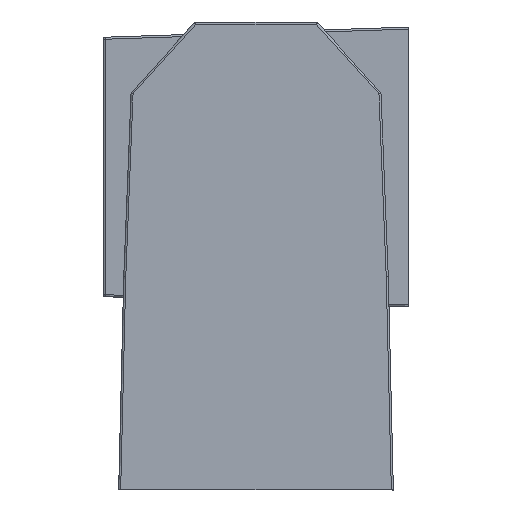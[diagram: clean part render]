
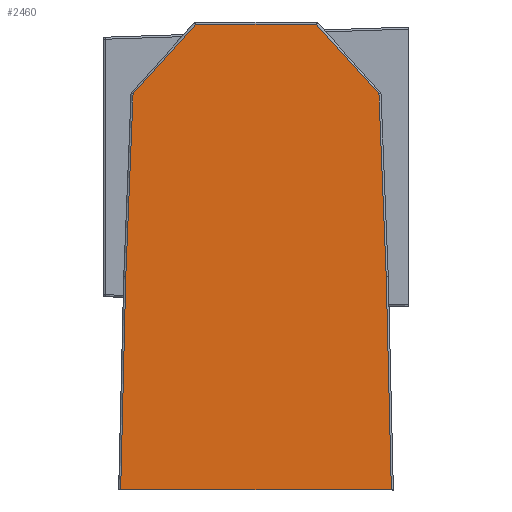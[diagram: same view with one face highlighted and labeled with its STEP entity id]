
A CAD part, left-side view. The second image highlights one B-rep face of the part: STEP entity #2460.
In plain terms, the highlighted planar face has unit normal (-1, 0, 0).
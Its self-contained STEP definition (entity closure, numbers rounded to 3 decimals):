
#201 = CARTESIAN_POINT ( 'NONE',  ( -81., -5.851, 22.866 ) ) ;
#235 = DIRECTION ( 'NONE',  ( 0., 0.668, 0.744 ) ) ;
#351 = DIRECTION ( 'NONE',  ( 0., 0., -1. ) ) ;
#457 = LINE ( 'NONE', #5366, #4140 ) ;
#489 = DIRECTION ( 'NONE',  ( 0., 0.024, 1. ) ) ;
#580 = EDGE_CURVE ( 'NONE', #2830, #8205, #6964, .T. ) ;
#723 = ORIENTED_EDGE ( 'NONE', *, *, #1234, .T. ) ;
#850 = CARTESIAN_POINT ( 'NONE',  ( -81., -13.5, -23. ) ) ;
#965 = VERTEX_POINT ( 'NONE', #6928 ) ;
#996 = EDGE_CURVE ( 'NONE', #7837, #2830, #1253, .T. ) ;
#1003 = EDGE_CURVE ( 'NONE', #8205, #1673, #3111, .T. ) ;
#1011 = CARTESIAN_POINT ( 'NONE',  ( -81., -5.911, 22.8 ) ) ;
#1022 = PLANE ( 'NONE',  #1541 ) ;
#1234 = EDGE_CURVE ( 'NONE', #1673, #2189, #1875, .T. ) ;
#1244 = DIRECTION ( 'NONE',  ( 0., 0.04, -0.999 ) ) ;
#1253 = LINE ( 'NONE', #3574, #4912 ) ;
#1496 = ORIENTED_EDGE ( 'NONE', *, *, #5629, .T. ) ;
#1541 = AXIS2_PLACEMENT_3D ( 'NONE', #8634, #4481, #351 ) ;
#1667 = CARTESIAN_POINT ( 'NONE',  ( -81., 12.083, 15.925 ) ) ;
#1673 = VERTEX_POINT ( 'NONE', #7435 ) ;
#1833 = EDGE_CURVE ( 'NONE', #2189, #965, #457, .T. ) ;
#1875 = LINE ( 'NONE', #1939, #5089 ) ;
#1939 = CARTESIAN_POINT ( 'NONE',  ( -81., 12.131, 15.872 ) ) ;
#2160 = ORIENTED_EDGE ( 'NONE', *, *, #1833, .T. ) ;
#2189 = VERTEX_POINT ( 'NONE', #1667 ) ;
#2273 = VECTOR ( 'NONE', #489, 1000. ) ;
#2371 = CARTESIAN_POINT ( 'NONE',  ( -81., -13.3, -23. ) ) ;
#2460 = ADVANCED_FACE ( 'NONE', ( #4872 ), #1022, .F. ) ;
#2606 = VECTOR ( 'NONE', #4141, 1000. ) ;
#2830 = VERTEX_POINT ( 'NONE', #3540 ) ;
#3111 = LINE ( 'NONE', #8391, #6521 ) ;
#3540 = CARTESIAN_POINT ( 'NONE',  ( -81., -12.083, 15.925 ) ) ;
#3574 = CARTESIAN_POINT ( 'NONE',  ( -81., -12.7, 0.508 ) ) ;
#3653 = ORIENTED_EDGE ( 'NONE', *, *, #580, .T. ) ;
#3886 = VERTEX_POINT ( 'NONE', #7943 ) ;
#4015 = CARTESIAN_POINT ( 'NONE',  ( -81., -12.8, -2.006 ) ) ;
#4140 = VECTOR ( 'NONE', #1244, 1000. ) ;
#4141 = DIRECTION ( 'NONE',  ( 0., 0.024, -1. ) ) ;
#4481 = DIRECTION ( 'NONE',  ( 1., 0., 0. ) ) ;
#4499 = ORIENTED_EDGE ( 'NONE', *, *, #5071, .T. ) ;
#4823 = ORIENTED_EDGE ( 'NONE', *, *, #1003, .T. ) ;
#4872 = FACE_OUTER_BOUND ( 'NONE', #5184, .T. ) ;
#4912 = VECTOR ( 'NONE', #7680, 1000. ) ;
#5071 = EDGE_CURVE ( 'NONE', #5936, #7837, #5917, .T. ) ;
#5089 = VECTOR ( 'NONE', #6047, 1000. ) ;
#5126 = VECTOR ( 'NONE', #235, 1000. ) ;
#5184 = EDGE_LOOP ( 'NONE', ( #2160, #1496, #6544, #4499, #5894, #3653, #4823, #723 ) ) ;
#5366 = CARTESIAN_POINT ( 'NONE',  ( -81., 12.7, 0.508 ) ) ;
#5485 = CARTESIAN_POINT ( 'NONE',  ( -81., 12.745, 0.303 ) ) ;
#5629 = EDGE_CURVE ( 'NONE', #965, #3886, #6671, .T. ) ;
#5894 = ORIENTED_EDGE ( 'NONE', *, *, #996, .T. ) ;
#5917 = LINE ( 'NONE', #7393, #2273 ) ;
#5936 = VERTEX_POINT ( 'NONE', #2371 ) ;
#6047 = DIRECTION ( 'NONE',  ( 0., 0.668, -0.744 ) ) ;
#6316 = DIRECTION ( 'NONE',  ( 0., 1., 0. ) ) ;
#6521 = VECTOR ( 'NONE', #6316, 1000. ) ;
#6544 = ORIENTED_EDGE ( 'NONE', *, *, #8585, .F. ) ;
#6671 = LINE ( 'NONE', #5485, #2606 ) ;
#6928 = CARTESIAN_POINT ( 'NONE',  ( -81., 12.8, -2.006 ) ) ;
#6964 = LINE ( 'NONE', #201, #5126 ) ;
#7049 = VECTOR ( 'NONE', #8466, 1000. ) ;
#7393 = CARTESIAN_POINT ( 'NONE',  ( -81., -12.745, 0.303 ) ) ;
#7435 = CARTESIAN_POINT ( 'NONE',  ( -81., 5.911, 22.8 ) ) ;
#7489 = LINE ( 'NONE', #850, #7049 ) ;
#7680 = DIRECTION ( 'NONE',  ( 0., 0.04, 0.999 ) ) ;
#7837 = VERTEX_POINT ( 'NONE', #4015 ) ;
#7943 = CARTESIAN_POINT ( 'NONE',  ( -81., 13.3, -23. ) ) ;
#8205 = VERTEX_POINT ( 'NONE', #1011 ) ;
#8391 = CARTESIAN_POINT ( 'NONE',  ( -81., 0., 22.8 ) ) ;
#8466 = DIRECTION ( 'NONE',  ( 0., 1., 0. ) ) ;
#8585 = EDGE_CURVE ( 'NONE', #5936, #3886, #7489, .T. ) ;
#8634 = CARTESIAN_POINT ( 'NONE',  ( -81., 0., 0. ) ) ;
